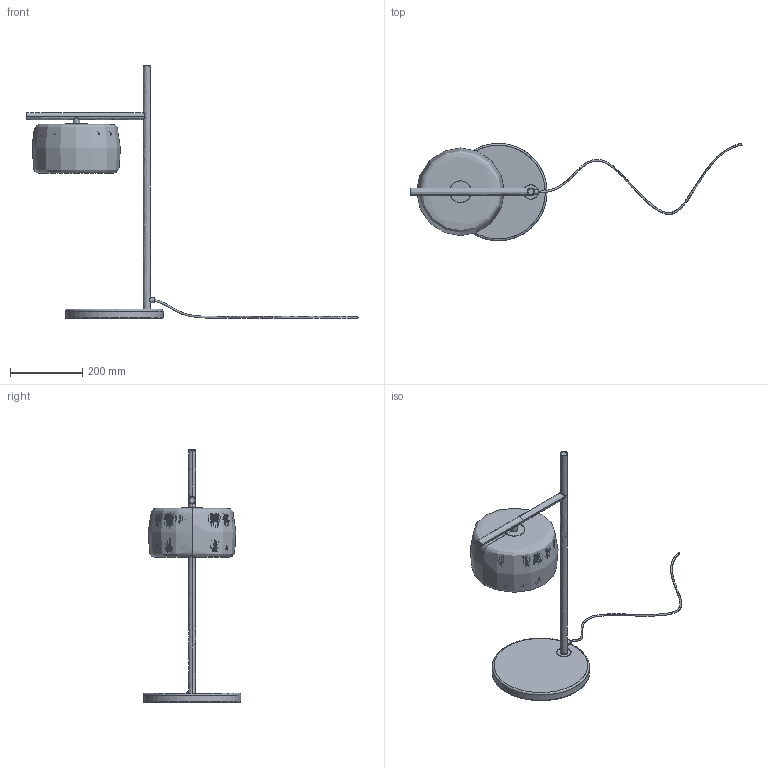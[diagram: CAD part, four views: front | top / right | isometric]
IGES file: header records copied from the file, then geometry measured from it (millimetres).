
Start section: SolidWorks IGES file using analytic representation for surfaces SolidWorks IGES file using analytic representation for surfaces SolidWorks IGES file using analytic representation for surfaces SolidWorks IGES file using analytic representation for surfaces SolidWorks IGES file using analytic representation for surfaces SolidWorks IGES file using analytic representation for surfaces SolidWorks IGES 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
Global section: file name: C:\Users\Nacho\Desktop\Aromas 2026\Seleccionados Aromas 2026\Manises Sobremesa.igs; native system: Rhinoceros ( Nov 12 2024 ); preprocessor: Trout Lake IGES 012 Nov 12 2024; date: 260519.112916; units: millimetre
Bounding box: 920.56 x 270.29 x 700 mm (x, y, z)
Surface area: 658399.1 mm2 (no closed solid volume)
Topology: 0 solids, 0 shells, 819 faces, 5722 edges, 5477 vertices
Faces by surface type: bspline 819
